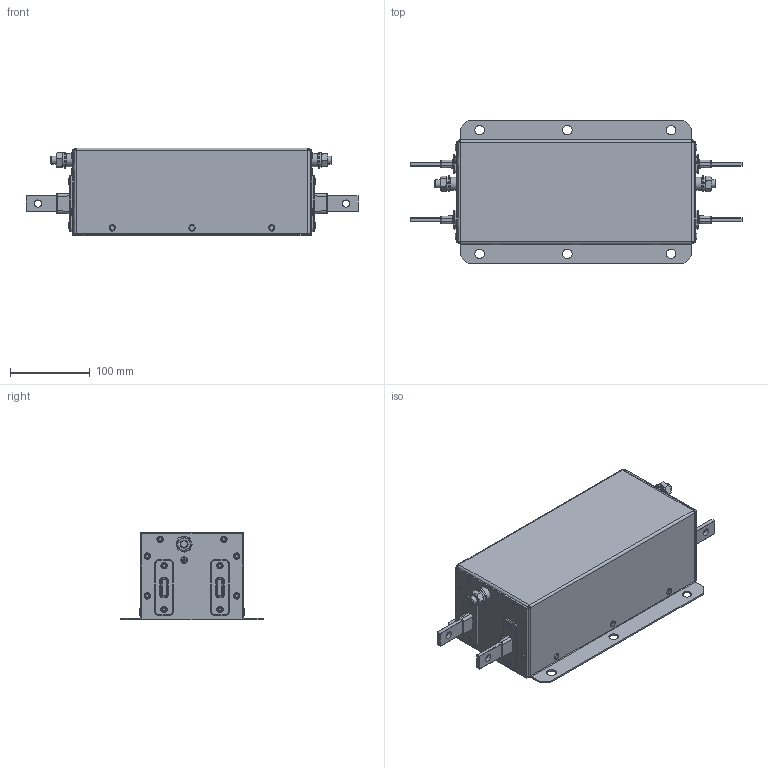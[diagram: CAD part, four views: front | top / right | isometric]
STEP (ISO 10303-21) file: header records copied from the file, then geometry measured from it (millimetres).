
FILE_DESCRIPTION((''),'2;1');
FILE_NAME('L:\INVENTOR_Projektedaten\HousingDesign\FN2200-250-99.stp','2012-10-18T07:04:56',('Samuel.Meier'),(''),'Autodesk Inventor 2010','Autodesk Inventor 2010','');
FILE_SCHEMA(('AUTOMOTIVE_DESIGN { 1 2 10303 214 0 1 1 1 }'));
Length unit declared in the file: millimetre
Products named in the file (1): FN2200-250-99
Bounding box: 416 x 180 x 110 mm (x, y, z)
Volume: 435645.7 mm3; surface area: 425189.7 mm2
Topology: 27 solids, 27 shells, 1417 faces, 3611 edges, 2285 vertices
Faces by surface type: plane 604, cylinder 400, bspline 266, torus 106, cone 41
Full cylindrical faces by diameter (mm): 4 x26, 6 x8, 7 x2, 7.9 x26, 8 x2, 9 x2, 9.188 x2, 10 x12, 10.5 x4, 15.4 x2, 16.5 x2, 20 x2
Entity records: 45711 total; most frequent: CARTESIAN_POINT 10890, DIRECTION 6798, ORIENTED_EDGE 6662, EDGE_CURVE 3331, AXIS2_PLACEMENT_3D 2407, VERTEX_POINT 2223, VECTOR 1984, LINE 1984
